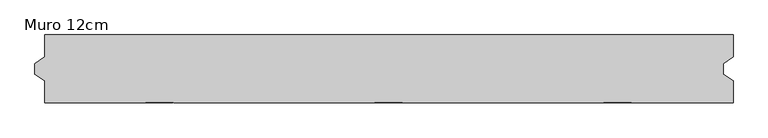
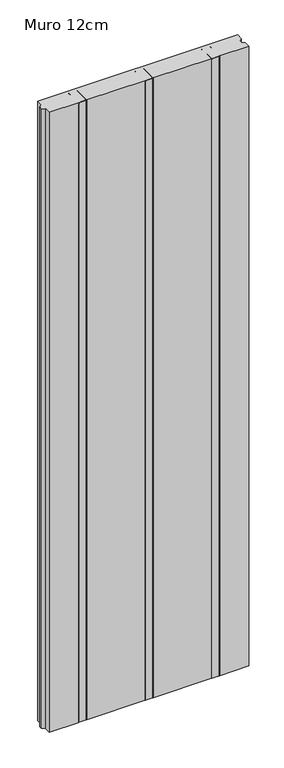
"""IFC4 building model written with IfcOpenShell, lengths in millimetres: plate geometry, Steelfoam Exterior : Muro 12cm."""

from ifc_helpers import new_model, si_unit, point, frame_2d, origin, origin_with_axes, place, context, project, spatial, polyline, circle_curve, trimmed, segment, composite_curve, outline, extrude, source, transform, mapped, element, save


def muro_12cm_e915ec84(model_context):
    return source(origin(), model_context, "Body", "SweptSolid", [
        extrude(outline(polyline([(610.0, 120.0), (610.0, 81.6434349), (592.3666592, 69.2964367), (592.3666592, 50.7035633), (610.0, 38.3565651), (610.0, 0.0), (430.4603819, 0.0), (430.4603819, 0.8), (379.6603819, 0.8), (379.6603819, 0.0), (24.3849224, 0.0), (24.3849224, 0.8), (-26.4150776, 0.8), (-26.4150776, 0.0), (-381.6225297, 0.0), (-381.6225297, 0.8), (-432.4225297, 0.8), (-432.4225297, 0.0), (-610.0, 0.0), (-610.0, 38.3565651), (-627.6333408, 50.7035633), (-627.6333408, 69.2964367), (-610.0, 81.6434349), (-610.0, 120.0), (610.0, 120.0)])), origin_with_axes(), (0.0, 0.0, 1.0), 4000.0),
        extrude(outline(composite_curve([segment(polyline([(430.4603819, 99.6), (430.4603819, 86.6), (429.6603819, 86.6), (429.6603819, 99.6)]), True, "CONTINUOUS"), segment(trimmed(circle_curve(frame_2d((428.3603819, 99.6)), 1.3), [point((429.6603819, 99.6))], [point((428.3603819, 100.9))], True, "CARTESIAN"), True, "CONTINUOUS"), segment(polyline([(428.3603819, 100.9), (381.6603819, 100.9)]), True, "CONTINUOUS"), segment(trimmed(circle_curve(frame_2d((381.6603819, 99.6)), 1.3), [point((381.6603819, 100.9))], [point((380.3603819, 99.6))], True, "CARTESIAN"), True, "CONTINUOUS"), segment(polyline([(380.3603819, 99.6), (380.3603819, 2.0)]), True, "CONTINUOUS"), segment(trimmed(circle_curve(frame_2d((381.6603819, 2.0)), 1.3), [point((380.3603819, 2.0))], [point((381.6603819, 0.7))], True, "CARTESIAN"), True, "CONTINUOUS"), segment(polyline([(381.6603819, 0.7), (428.3603819, 0.7)]), True, "CONTINUOUS"), segment(trimmed(circle_curve(frame_2d((428.3603819, 2.0)), 1.3), [point((428.3603819, 0.7))], [point((429.6603819, 2.0))], True, "CARTESIAN"), True, "CONTINUOUS"), segment(polyline([(429.6603819, 2.0), (429.6603819, 15.0), (430.4603819, 15.0), (430.4603819, 2.0)]), True, "CONTINUOUS"), segment(trimmed(circle_curve(frame_2d((428.4603819, 2.0)), 2.0), [point((430.4603819, 2.0))], [point((428.4603819, 0.0))], False, "CARTESIAN"), True, "CONTINUOUS"), segment(polyline([(428.4603819, 0.0), (381.6603819, 0.0)]), True, "CONTINUOUS"), segment(trimmed(circle_curve(frame_2d((381.6603819, 2.0)), 2.0), [point((381.6603819, 0.0))], [point((379.6603819, 2.0))], False, "CARTESIAN"), True, "CONTINUOUS"), segment(polyline([(379.6603819, 2.0), (379.6603819, 99.6)]), True, "CONTINUOUS"), segment(trimmed(circle_curve(frame_2d((381.6603819, 99.6)), 2.0), [point((379.6603819, 99.6))], [point((381.6603819, 101.6))], False, "CARTESIAN"), True, "CONTINUOUS"), segment(polyline([(381.6603819, 101.6), (428.4603819, 101.6)]), True, "CONTINUOUS"), segment(trimmed(circle_curve(frame_2d((428.4603819, 99.6)), 2.0), [point((428.4603819, 101.6))], [point((430.4603819, 99.6))], False, "CARTESIAN"), True, "CONTINUOUS")], self_intersect=False)), origin_with_axes(), (0.0, 0.0, 1.0), 4000.0),
        extrude(outline(composite_curve([segment(trimmed(circle_curve(frame_2d((-24.4150776, 99.6)), 2.0), [point((-26.4150776, 99.6))], [point((-24.4150776, 101.6))], False, "CARTESIAN"), True, "CONTINUOUS"), segment(polyline([(-24.4150776, 101.6), (22.3849224, 101.6)]), True, "CONTINUOUS"), segment(trimmed(circle_curve(frame_2d((22.3849224, 99.6)), 2.0), [point((22.3849224, 101.6))], [point((24.3849224, 99.6))], False, "CARTESIAN"), True, "CONTINUOUS"), segment(polyline([(24.3849224, 99.6), (24.3849224, 2.0)]), True, "CONTINUOUS"), segment(trimmed(circle_curve(frame_2d((22.3849224, 2.0)), 2.0), [point((24.3849224, 2.0))], [point((22.3849224, 0.0))], False, "CARTESIAN"), True, "CONTINUOUS"), segment(polyline([(22.3849224, 0.0), (-24.4150776, 0.0)]), True, "CONTINUOUS"), segment(trimmed(circle_curve(frame_2d((-24.4150776, 2.0)), 2.0), [point((-24.4150776, 0.0))], [point((-26.4150776, 2.0))], False, "CARTESIAN"), True, "CONTINUOUS"), segment(polyline([(-26.4150776, 2.0), (-26.4150776, 15.0), (-25.6150776, 15.0), (-25.6150776, 2.0)]), True, "CONTINUOUS"), segment(trimmed(circle_curve(frame_2d((-24.3150776, 2.0)), 1.3), [point((-25.6150776, 2.0))], [point((-24.3150776, 0.7))], True, "CARTESIAN"), True, "CONTINUOUS"), segment(polyline([(-24.3150776, 0.7), (22.3849224, 0.7)]), True, "CONTINUOUS"), segment(trimmed(circle_curve(frame_2d((22.3849224, 2.0)), 1.3), [point((22.3849224, 0.7))], [point((23.6849224, 2.0))], True, "CARTESIAN"), True, "CONTINUOUS"), segment(polyline([(23.6849224, 2.0), (23.6849224, 99.6)]), True, "CONTINUOUS"), segment(trimmed(circle_curve(frame_2d((22.3849224, 99.6)), 1.3), [point((23.6849224, 99.6))], [point((22.3849224, 100.9))], True, "CARTESIAN"), True, "CONTINUOUS"), segment(polyline([(22.3849224, 100.9), (-24.3150776, 100.9)]), True, "CONTINUOUS"), segment(trimmed(circle_curve(frame_2d((-24.3150776, 99.6)), 1.3), [point((-24.3150776, 100.9))], [point((-25.6150776, 99.6))], True, "CARTESIAN"), True, "CONTINUOUS"), segment(polyline([(-25.6150776, 99.6), (-25.6150776, 86.6), (-26.4150776, 86.6), (-26.4150776, 99.6)]), True, "CONTINUOUS")], self_intersect=False)), origin_with_axes(), (0.0, 0.0, 1.0), 4000.0),
        extrude(outline(composite_curve([segment(trimmed(circle_curve(frame_2d((-430.4225297, 99.6)), 2.0), [point((-432.4225297, 99.6))], [point((-430.4225297, 101.6))], False, "CARTESIAN"), True, "CONTINUOUS"), segment(polyline([(-430.4225297, 101.6), (-383.6225297, 101.6)]), True, "CONTINUOUS"), segment(trimmed(circle_curve(frame_2d((-383.6225297, 99.6)), 2.0), [point((-383.6225297, 101.6))], [point((-381.6225297, 99.6))], False, "CARTESIAN"), True, "CONTINUOUS"), segment(polyline([(-381.6225297, 99.6), (-381.6225297, 2.0)]), True, "CONTINUOUS"), segment(trimmed(circle_curve(frame_2d((-383.6225297, 2.0)), 2.0), [point((-381.6225297, 2.0))], [point((-383.6225297, 0.0))], False, "CARTESIAN"), True, "CONTINUOUS"), segment(polyline([(-383.6225297, 0.0), (-430.4225297, 0.0)]), True, "CONTINUOUS"), segment(trimmed(circle_curve(frame_2d((-430.4225297, 2.0)), 2.0), [point((-430.4225297, 0.0))], [point((-432.4225297, 2.0))], False, "CARTESIAN"), True, "CONTINUOUS"), segment(polyline([(-432.4225297, 2.0), (-432.4225297, 15.0), (-431.6225297, 15.0), (-431.6225297, 2.0)]), True, "CONTINUOUS"), segment(trimmed(circle_curve(frame_2d((-430.3225297, 2.0)), 1.3), [point((-431.6225297, 2.0))], [point((-430.3225297, 0.7))], True, "CARTESIAN"), True, "CONTINUOUS"), segment(polyline([(-430.3225297, 0.7), (-383.6225297, 0.7)]), True, "CONTINUOUS"), segment(trimmed(circle_curve(frame_2d((-383.6225297, 2.0)), 1.3), [point((-383.6225297, 0.7))], [point((-382.3225297, 2.0))], True, "CARTESIAN"), True, "CONTINUOUS"), segment(polyline([(-382.3225297, 2.0), (-382.3225297, 99.6)]), True, "CONTINUOUS"), segment(trimmed(circle_curve(frame_2d((-383.6225297, 99.6)), 1.3), [point((-382.3225297, 99.6))], [point((-383.6225297, 100.9))], True, "CARTESIAN"), True, "CONTINUOUS"), segment(polyline([(-383.6225297, 100.9), (-430.3225297, 100.9)]), True, "CONTINUOUS"), segment(trimmed(circle_curve(frame_2d((-430.3225297, 99.6)), 1.3), [point((-430.3225297, 100.9))], [point((-431.6225297, 99.6))], True, "CARTESIAN"), True, "CONTINUOUS"), segment(polyline([(-431.6225297, 99.6), (-431.6225297, 86.6), (-432.4225297, 86.6), (-432.4225297, 99.6)]), True, "CONTINUOUS")], self_intersect=False)), origin_with_axes(), (0.0, 0.0, 1.0), 4000.0),
    ])


if __name__ == "__main__":
    model = new_model("IFC4")
    model_context = context("Model", 3, world=origin())
    ifc_project = project(units=[si_unit("LENGTHUNIT", "METRE", prefix="MILLI")], contexts=[model_context])
    site = spatial("IfcSite", under=ifc_project)
    building = spatial("IfcBuilding", under=site)
    placement = place(None, origin())
    muro_12cm_shape = muro_12cm_e915ec84(model_context)
    element("IfcPlate", 1, ObjectType="Steelfoam Exterior : Muro 12cm", at=placement, inside=building, context=model_context, shape_type="MappedRepresentation", body=[
        mapped(muro_12cm_shape, transform((0.0, 0.0, 0.0), x_axis=(1.0, 0.0, 0.0), y_axis=(0.0, 1.0, 0.0), z_axis=(0.0, 0.0, 1.0))),
    ])
    save(model, "model.ifc")
